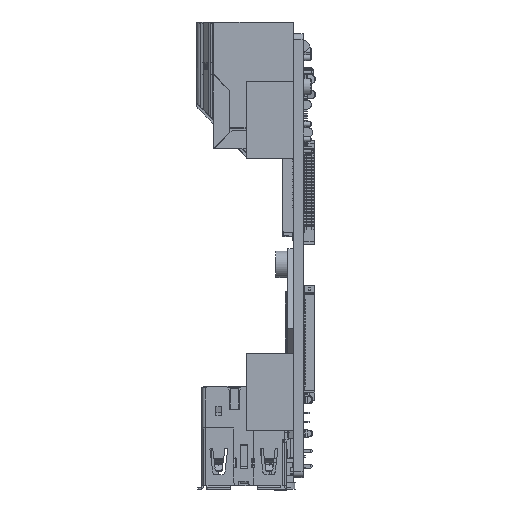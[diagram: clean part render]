
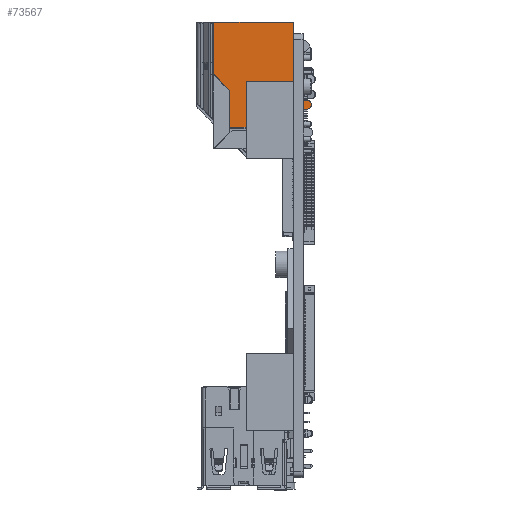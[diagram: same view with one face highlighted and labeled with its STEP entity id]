
A CAD part, left-side view. The second image highlights one B-rep face of the part: STEP entity #73567.
In plain terms, the highlighted planar face has unit normal (-1, 0, 0).
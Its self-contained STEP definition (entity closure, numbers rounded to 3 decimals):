
#496 = LINE ( 'NONE', #70200, #129374 ) ;
#2338 = LINE ( 'NONE', #67549, #32594 ) ;
#6126 = ORIENTED_EDGE ( 'NONE', *, *, #176433, .T. ) ;
#26953 = LINE ( 'NONE', #97749, #200552 ) ;
#28476 = ORIENTED_EDGE ( 'NONE', *, *, #71727, .T. ) ;
#29230 = DIRECTION ( 'NONE',  ( 0., 1., 0. ) ) ;
#32594 = VECTOR ( 'NONE', #53763, 1000. ) ;
#32600 = EDGE_CURVE ( 'NONE', #216164, #195696, #185914, .T. ) ;
#37702 = EDGE_LOOP ( 'NONE', ( #45232, #130505, #28476, #100454, #195876, #6126, #136109, #214136, #157408, #128526 ) ) ;
#39890 = CARTESIAN_POINT ( 'NONE',  ( 0., 0., -8.763 ) ) ;
#44987 = DIRECTION ( 'NONE',  ( 0., 0., 1. ) ) ;
#45232 = ORIENTED_EDGE ( 'NONE', *, *, #58349, .T. ) ;
#46664 = VECTOR ( 'NONE', #29230, 1000. ) ;
#47342 = CARTESIAN_POINT ( 'NONE',  ( 0., -15.75, -14.72 ) ) ;
#47528 = AXIS2_PLACEMENT_3D ( 'NONE', #51151, #120872, #190680 ) ;
#51151 = CARTESIAN_POINT ( 'NONE',  ( 0., -13.5, -21.4 ) ) ;
#51591 = VERTEX_POINT ( 'NONE', #102183 ) ;
#52088 = CIRCLE ( 'NONE', #209139, 0.75 ) ;
#53763 = DIRECTION ( 'NONE',  ( 0., -0.701, -0.713 ) ) ;
#54337 = VERTEX_POINT ( 'NONE', #73534 ) ;
#56773 = CARTESIAN_POINT ( 'NONE',  ( 0., -13.5, -17.748 ) ) ;
#57595 = VECTOR ( 'NONE', #85762, 1000. ) ;
#58349 = EDGE_CURVE ( 'NONE', #51591, #72596, #191025, .T. ) ;
#60325 = VERTEX_POINT ( 'NONE', #47342 ) ;
#67549 = CARTESIAN_POINT ( 'NONE',  ( 0., -12.956, -21.935 ) ) ;
#69788 = VECTOR ( 'NONE', #178578, 1000. ) ;
#70200 = CARTESIAN_POINT ( 'NONE',  ( 0., -13.5, -14.72 ) ) ;
#71727 = EDGE_CURVE ( 'NONE', #54337, #129468, #192121, .T. ) ;
#72596 = VERTEX_POINT ( 'NONE', #223659 ) ;
#73534 = CARTESIAN_POINT ( 'NONE',  ( 0., -13.5, -17.748 ) ) ;
#73567 = ADVANCED_FACE ( 'NONE', ( #191774 ), #102555, .T. ) ;
#75072 = LINE ( 'NONE', #56773, #126519 ) ;
#80057 = CARTESIAN_POINT ( 'NONE',  ( 0., -13.5, -21.4 ) ) ;
#82176 = EDGE_CURVE ( 'NONE', #72596, #54337, #75072, .T. ) ;
#85762 = DIRECTION ( 'NONE',  ( 0., 0., 1. ) ) ;
#85774 = CARTESIAN_POINT ( 'NONE',  ( 0., -2.72, -21.4 ) ) ;
#97749 = CARTESIAN_POINT ( 'NONE',  ( 0., -15.75, -13.22 ) ) ;
#100454 = ORIENTED_EDGE ( 'NONE', *, *, #162512, .T. ) ;
#102183 = CARTESIAN_POINT ( 'NONE',  ( 0., -2.72, -11.529 ) ) ;
#102555 = PLANE ( 'NONE',  #47528 ) ;
#112314 = VERTEX_POINT ( 'NONE', #169522 ) ;
#113983 = EDGE_CURVE ( 'NONE', #193333, #195696, #179720, .T. ) ;
#114386 = DIRECTION ( 'NONE',  ( 0., 0., 1. ) ) ;
#120872 = DIRECTION ( 'NONE',  ( -1., 0., 0. ) ) ;
#126519 = VECTOR ( 'NONE', #147013, 1000. ) ;
#128387 = DIRECTION ( 'NONE',  ( 0., -1., 0. ) ) ;
#128526 = ORIENTED_EDGE ( 'NONE', *, *, #144342, .T. ) ;
#129240 = LINE ( 'NONE', #80057, #170037 ) ;
#129374 = VECTOR ( 'NONE', #128387, 1000. ) ;
#129468 = VERTEX_POINT ( 'NONE', #146167 ) ;
#130505 = ORIENTED_EDGE ( 'NONE', *, *, #82176, .T. ) ;
#130732 = DIRECTION ( 'NONE',  ( -1., 0., 0. ) ) ;
#134336 = CARTESIAN_POINT ( 'NONE',  ( 0., 0., 0. ) ) ;
#136109 = ORIENTED_EDGE ( 'NONE', *, *, #155365, .T. ) ;
#138366 = DIRECTION ( 'NONE',  ( 0., 0., -1. ) ) ;
#144342 = EDGE_CURVE ( 'NONE', #193333, #51591, #2338, .T. ) ;
#146167 = CARTESIAN_POINT ( 'NONE',  ( 0., -13.5, -14.72 ) ) ;
#147013 = DIRECTION ( 'NONE',  ( 0., -1., 0. ) ) ;
#150648 = CARTESIAN_POINT ( 'NONE',  ( 0., 0., -21.4 ) ) ;
#153087 = CARTESIAN_POINT ( 'NONE',  ( 0., -13.5, -13.22 ) ) ;
#155365 = EDGE_CURVE ( 'NONE', #164501, #216164, #129240, .T. ) ;
#157408 = ORIENTED_EDGE ( 'NONE', *, *, #113983, .F. ) ;
#162512 = EDGE_CURVE ( 'NONE', #129468, #60325, #496, .T. ) ;
#162847 = CARTESIAN_POINT ( 'NONE',  ( 0., -15.75, -13.97 ) ) ;
#164501 = VERTEX_POINT ( 'NONE', #153087 ) ;
#169522 = CARTESIAN_POINT ( 'NONE',  ( 0., -15.75, -13.22 ) ) ;
#170037 = VECTOR ( 'NONE', #114386, 1000. ) ;
#172774 = CARTESIAN_POINT ( 'NONE',  ( 0., -13.5, -21.4 ) ) ;
#176433 = EDGE_CURVE ( 'NONE', #112314, #164501, #26953, .T. ) ;
#178578 = DIRECTION ( 'NONE',  ( 0., 0., 1. ) ) ;
#179291 = EDGE_CURVE ( 'NONE', #60325, #112314, #52088, .T. ) ;
#179720 = LINE ( 'NONE', #150648, #69788 ) ;
#180240 = DIRECTION ( 'NONE',  ( 0., 1., 0. ) ) ;
#181217 = VECTOR ( 'NONE', #138366, 1000. ) ;
#185914 = LINE ( 'NONE', #199639, #46664 ) ;
#190680 = DIRECTION ( 'NONE',  ( 0., 0., 1. ) ) ;
#191025 = LINE ( 'NONE', #85774, #181217 ) ;
#191774 = FACE_OUTER_BOUND ( 'NONE', #37702, .T. ) ;
#192121 = LINE ( 'NONE', #172774, #57595 ) ;
#193333 = VERTEX_POINT ( 'NONE', #39890 ) ;
#195696 = VERTEX_POINT ( 'NONE', #134336 ) ;
#195876 = ORIENTED_EDGE ( 'NONE', *, *, #179291, .T. ) ;
#199639 = CARTESIAN_POINT ( 'NONE',  ( 0., -13.5, 0. ) ) ;
#200552 = VECTOR ( 'NONE', #180240, 1000. ) ;
#209139 = AXIS2_PLACEMENT_3D ( 'NONE', #162847, #130732, #44987 ) ;
#210816 = CARTESIAN_POINT ( 'NONE',  ( 0., -13.5, 0. ) ) ;
#214136 = ORIENTED_EDGE ( 'NONE', *, *, #32600, .T. ) ;
#216164 = VERTEX_POINT ( 'NONE', #210816 ) ;
#223659 = CARTESIAN_POINT ( 'NONE',  ( 0., -2.72, -17.748 ) ) ;
